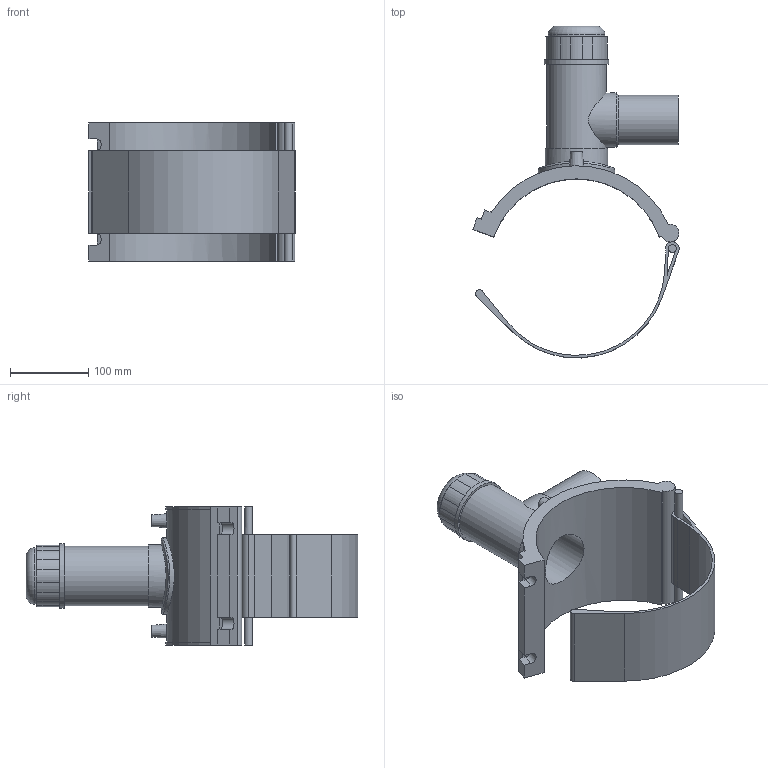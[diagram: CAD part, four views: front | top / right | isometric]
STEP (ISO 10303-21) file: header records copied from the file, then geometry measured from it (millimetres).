
FILE_DESCRIPTION(/* description */ ('PLASSON TAPPING TEE SADDLE 225mm x 63mm'),/* implementation_level */ '2;1');
FILE_NAME(/* name */ 'C:\Dropbox\KIMPROJECTS-Inventor 2019\99-16-3568-Processing\ElectroFusion Fittings\491304\491304225063.stp',/* time_stamp */ '2023-03-23T11:28:59+02:00',/* author */ ('KIM'),/* organization */ (''),/* preprocessor_version */ 'ST-DEVELOPER v17.2',/* originating_system */ 'Autodesk Inventor 2019',/* authorisation */ '');
FILE_SCHEMA (('AUTOMOTIVE_DESIGN { 1 0 10303 214 3 1 1 }'));
Length unit declared in the file: millimetre
Products named in the file (1): 491304225063
Bounding box: 262.98 x 423.17 x 176 mm (x, y, z)
Volume: 1511760.2 mm3; surface area: 337046.7 mm2
Topology: 2 solids, 2 shells, 92 faces, 234 edges, 161 vertices
Faces by surface type: cylinder 44, plane 43, cone 3, bspline 1, torus 1
Full cylindrical faces by diameter (mm): 4 x2, 10 x3, 50.4 x1, 63 x1, 69.3 x1, 69.6 x1, 72.45 x1, 75.6 x1, 79.6 x1, 81.9 x1, 97.65 x1
Entity records: 3425 total; most frequent: CARTESIAN_POINT 1050, DIRECTION 506, ORIENTED_EDGE 470, EDGE_CURVE 235, AXIS2_PLACEMENT_3D 196, VERTEX_POINT 163, LINE 114, VECTOR 114
